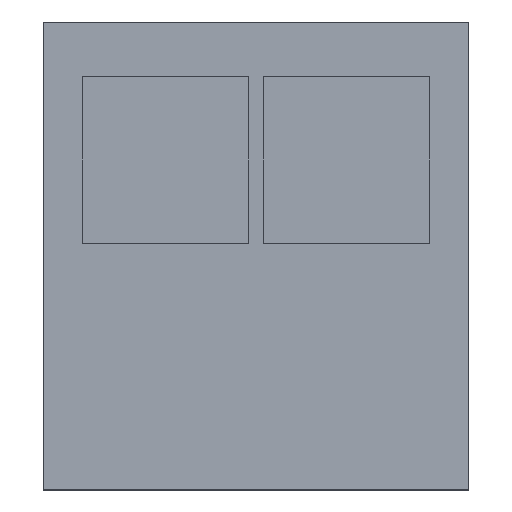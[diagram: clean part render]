
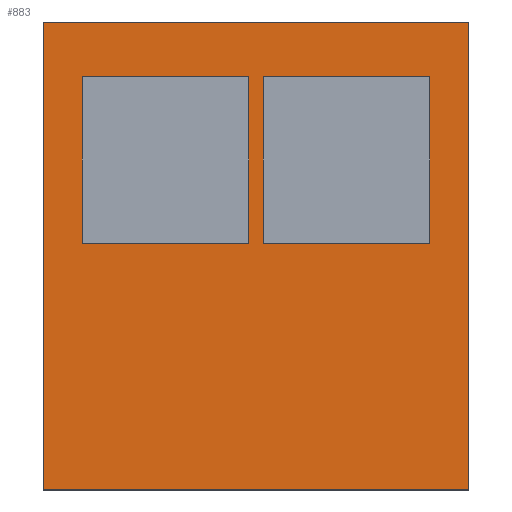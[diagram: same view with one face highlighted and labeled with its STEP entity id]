
A CAD part, top view. The second image highlights one B-rep face of the part: STEP entity #883.
In plain terms, the highlighted planar face has unit normal (0, 0, 1).
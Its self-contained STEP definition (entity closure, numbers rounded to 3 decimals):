
#3 = ORIENTED_EDGE ( 'NONE', *, *, #1473, .T. ) ;
#12 = EDGE_CURVE ( 'NONE', #1480, #757, #1300, .T. ) ;
#64 = VERTEX_POINT ( 'NONE', #1064 ) ;
#115 = VECTOR ( 'NONE', #1591, 1000. ) ;
#127 = CARTESIAN_POINT ( 'NONE',  ( -0.045, 0.08, 0. ) ) ;
#141 = LINE ( 'NONE', #1466, #646 ) ;
#193 = EDGE_CURVE ( 'NONE', #64, #1214, #1068, .T. ) ;
#224 = VECTOR ( 'NONE', #1528, 1000. ) ;
#231 = CARTESIAN_POINT ( 'NONE',  ( 1.365, 1.5, 0. ) ) ;
#263 = VERTEX_POINT ( 'NONE', #127 ) ;
#324 = VECTOR ( 'NONE', #1376, 1000. ) ;
#325 = VERTEX_POINT ( 'NONE', #684 ) ;
#333 = CARTESIAN_POINT ( 'NONE',  ( 0., 1.15, 0. ) ) ;
#346 = ORIENTED_EDGE ( 'NONE', *, *, #1041, .F. ) ;
#348 = CARTESIAN_POINT ( 'NONE',  ( -1.115, 1.15, 0. ) ) ;
#382 = VERTEX_POINT ( 'NONE', #348 ) ;
#393 = EDGE_LOOP ( 'NONE', ( #890, #2203, #2038, #3 ) ) ;
#404 = CARTESIAN_POINT ( 'NONE',  ( -0.045, 0., 0. ) ) ;
#411 = LINE ( 'NONE', #423, #1947 ) ;
#423 = CARTESIAN_POINT ( 'NONE',  ( 0., 0.08, 0. ) ) ;
#445 = CARTESIAN_POINT ( 'NONE',  ( 1.365, -1.5, 0. ) ) ;
#462 = PLANE ( 'NONE',  #1655 ) ;
#469 = DIRECTION ( 'NONE',  ( 1., 0., 0. ) ) ;
#489 = CARTESIAN_POINT ( 'NONE',  ( -1.365, 1.5, 0. ) ) ;
#491 = VERTEX_POINT ( 'NONE', #1608 ) ;
#537 = EDGE_CURVE ( 'NONE', #1586, #1480, #1223, .T. ) ;
#541 = DIRECTION ( 'NONE',  ( 0., 0., 1. ) ) ;
#552 = CARTESIAN_POINT ( 'NONE',  ( -1.115, 0., 0. ) ) ;
#553 = LINE ( 'NONE', #404, #1568 ) ;
#601 = VECTOR ( 'NONE', #1112, 1000. ) ;
#617 = EDGE_LOOP ( 'NONE', ( #919, #1082, #1435, #1963 ) ) ;
#646 = VECTOR ( 'NONE', #469, 1000. ) ;
#684 = CARTESIAN_POINT ( 'NONE',  ( 0.045, 0.08, 0. ) ) ;
#710 = CARTESIAN_POINT ( 'NONE',  ( 1.115, 0., 0. ) ) ;
#723 = ORIENTED_EDGE ( 'NONE', *, *, #193, .F. ) ;
#757 = VERTEX_POINT ( 'NONE', #489 ) ;
#762 = CARTESIAN_POINT ( 'NONE',  ( 1.115, 1.15, 0. ) ) ;
#784 = EDGE_CURVE ( 'NONE', #491, #263, #818, .T. ) ;
#818 = LINE ( 'NONE', #1318, #1092 ) ;
#845 = VECTOR ( 'NONE', #1292, 1000. ) ;
#848 = LINE ( 'NONE', #333, #224 ) ;
#872 = ORIENTED_EDGE ( 'NONE', *, *, #1672, .F. ) ;
#883 = ADVANCED_FACE ( 'NONE', ( #2196, #2018, #966 ), #462, .T. ) ;
#890 = ORIENTED_EDGE ( 'NONE', *, *, #537, .T. ) ;
#919 = ORIENTED_EDGE ( 'NONE', *, *, #1152, .F. ) ;
#966 = FACE_OUTER_BOUND ( 'NONE', #393, .T. ) ;
#1000 = EDGE_CURVE ( 'NONE', #325, #64, #411, .T. ) ;
#1003 = LINE ( 'NONE', #2079, #1508 ) ;
#1041 = EDGE_CURVE ( 'NONE', #1214, #2023, #2007, .T. ) ;
#1060 = LINE ( 'NONE', #1089, #845 ) ;
#1064 = CARTESIAN_POINT ( 'NONE',  ( 1.115, 0.08, 0. ) ) ;
#1068 = LINE ( 'NONE', #710, #115 ) ;
#1073 = CARTESIAN_POINT ( 'NONE',  ( -0.045, 1.15, 0. ) ) ;
#1082 = ORIENTED_EDGE ( 'NONE', *, *, #2050, .F. ) ;
#1089 = CARTESIAN_POINT ( 'NONE',  ( 0.045, 0., 0. ) ) ;
#1092 = VECTOR ( 'NONE', #1162, 1000. ) ;
#1112 = DIRECTION ( 'NONE',  ( -1., 0., 0. ) ) ;
#1152 = EDGE_CURVE ( 'NONE', #382, #491, #1562, .T. ) ;
#1162 = DIRECTION ( 'NONE',  ( 1., 0., 0. ) ) ;
#1214 = VERTEX_POINT ( 'NONE', #762 ) ;
#1220 = DIRECTION ( 'NONE',  ( 0., -1., 0. ) ) ;
#1223 = LINE ( 'NONE', #231, #324 ) ;
#1233 = DIRECTION ( 'NONE',  ( 0., 1., 0. ) ) ;
#1271 = CARTESIAN_POINT ( 'NONE',  ( -1.365, 1.5, 0. ) ) ;
#1288 = CARTESIAN_POINT ( 'NONE',  ( 1.365, 1.5, 0. ) ) ;
#1292 = DIRECTION ( 'NONE',  ( 0., -1., 0. ) ) ;
#1298 = EDGE_CURVE ( 'NONE', #263, #1642, #553, .T. ) ;
#1300 = LINE ( 'NONE', #1271, #601 ) ;
#1318 = CARTESIAN_POINT ( 'NONE',  ( 0., 0.08, 0. ) ) ;
#1335 = VERTEX_POINT ( 'NONE', #1401 ) ;
#1376 = DIRECTION ( 'NONE',  ( 0., 1., 0. ) ) ;
#1401 = CARTESIAN_POINT ( 'NONE',  ( -1.365, -1.5, 0. ) ) ;
#1416 = DIRECTION ( 'NONE',  ( -1., 0., 0. ) ) ;
#1435 = ORIENTED_EDGE ( 'NONE', *, *, #1298, .F. ) ;
#1466 = CARTESIAN_POINT ( 'NONE',  ( -1.365, -1.5, 0. ) ) ;
#1473 = EDGE_CURVE ( 'NONE', #1335, #1586, #141, .T. ) ;
#1477 = CARTESIAN_POINT ( 'NONE',  ( 0.045, 1.15, 0. ) ) ;
#1480 = VERTEX_POINT ( 'NONE', #1288 ) ;
#1508 = VECTOR ( 'NONE', #1900, 1000. ) ;
#1509 = EDGE_LOOP ( 'NONE', ( #872, #346, #723, #2006 ) ) ;
#1528 = DIRECTION ( 'NONE',  ( -1., 0., 0. ) ) ;
#1562 = LINE ( 'NONE', #552, #1565 ) ;
#1565 = VECTOR ( 'NONE', #1220, 1000. ) ;
#1568 = VECTOR ( 'NONE', #1233, 1000. ) ;
#1586 = VERTEX_POINT ( 'NONE', #445 ) ;
#1591 = DIRECTION ( 'NONE',  ( 0., 1., 0. ) ) ;
#1599 = CARTESIAN_POINT ( 'NONE',  ( 0., 1.15, 0. ) ) ;
#1608 = CARTESIAN_POINT ( 'NONE',  ( -1.115, 0.08, 0. ) ) ;
#1614 = VECTOR ( 'NONE', #1416, 1000. ) ;
#1642 = VERTEX_POINT ( 'NONE', #1073 ) ;
#1655 = AXIS2_PLACEMENT_3D ( 'NONE', #2086, #541, #1922 ) ;
#1672 = EDGE_CURVE ( 'NONE', #2023, #325, #1060, .T. ) ;
#1773 = DIRECTION ( 'NONE',  ( 1., 0., 0. ) ) ;
#1900 = DIRECTION ( 'NONE',  ( 0., -1., 0. ) ) ;
#1922 = DIRECTION ( 'NONE',  ( 1., 0., 0. ) ) ;
#1947 = VECTOR ( 'NONE', #1773, 1000. ) ;
#1963 = ORIENTED_EDGE ( 'NONE', *, *, #784, .F. ) ;
#2006 = ORIENTED_EDGE ( 'NONE', *, *, #1000, .F. ) ;
#2007 = LINE ( 'NONE', #1599, #1614 ) ;
#2018 = FACE_BOUND ( 'NONE', #1509, .T. ) ;
#2023 = VERTEX_POINT ( 'NONE', #1477 ) ;
#2038 = ORIENTED_EDGE ( 'NONE', *, *, #2090, .T. ) ;
#2050 = EDGE_CURVE ( 'NONE', #1642, #382, #848, .T. ) ;
#2079 = CARTESIAN_POINT ( 'NONE',  ( -1.365, 1.5, 0. ) ) ;
#2086 = CARTESIAN_POINT ( 'NONE',  ( 0., 0., 0. ) ) ;
#2090 = EDGE_CURVE ( 'NONE', #757, #1335, #1003, .T. ) ;
#2196 = FACE_BOUND ( 'NONE', #617, .T. ) ;
#2203 = ORIENTED_EDGE ( 'NONE', *, *, #12, .T. ) ;
